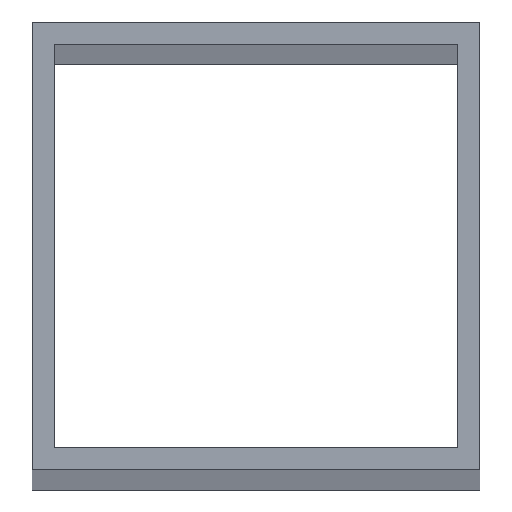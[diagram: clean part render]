
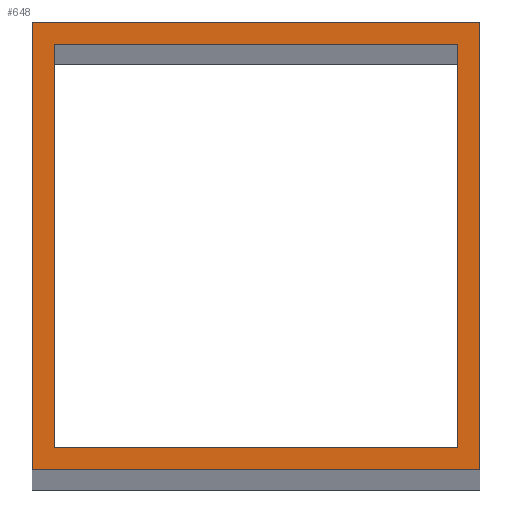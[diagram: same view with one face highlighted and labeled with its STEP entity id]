
A CAD part, top view. The second image highlights one B-rep face of the part: STEP entity #648.
In plain terms, the highlighted planar face has unit normal (0, 0, 1).
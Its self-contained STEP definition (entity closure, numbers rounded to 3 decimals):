
#24 = VERTEX_POINT('',#25);
#25 = CARTESIAN_POINT('',(-40.,-40.,2050.));
#32 = PLANE('',#33);
#33 = AXIS2_PLACEMENT_3D('',#34,#35,#36);
#34 = CARTESIAN_POINT('',(-40.,-40.,0.));
#35 = DIRECTION('',(0.,1.,0.));
#36 = DIRECTION('',(1.,0.,0.));
#44 = PLANE('',#45);
#45 = AXIS2_PLACEMENT_3D('',#46,#47,#48);
#46 = CARTESIAN_POINT('',(-40.,40.,0.));
#47 = DIRECTION('',(1.,0.,-0.));
#48 = DIRECTION('',(0.,-1.,0.));
#56 = EDGE_CURVE('',#24,#57,#59,.T.);
#57 = VERTEX_POINT('',#58);
#58 = CARTESIAN_POINT('',(40.,-40.,2050.));
#59 = SURFACE_CURVE('',#60,(#64,#71),.PCURVE_S1.);
#60 = LINE('',#61,#62);
#61 = CARTESIAN_POINT('',(-40.,-40.,2050.));
#62 = VECTOR('',#63,1.);
#63 = DIRECTION('',(1.,0.,0.));
#64 = PCURVE('',#32,#65);
#65 = DEFINITIONAL_REPRESENTATION('',(#66),#70);
#66 = LINE('',#67,#68);
#67 = CARTESIAN_POINT('',(0.,-2050.));
#68 = VECTOR('',#69,1.);
#69 = DIRECTION('',(1.,0.));
#70 = ( GEOMETRIC_REPRESENTATION_CONTEXT(2) 
PARAMETRIC_REPRESENTATION_CONTEXT() REPRESENTATION_CONTEXT('2D SPACE',''
  ) );
#71 = PCURVE('',#72,#77);
#72 = PLANE('',#73);
#73 = AXIS2_PLACEMENT_3D('',#74,#75,#76);
#74 = CARTESIAN_POINT('',(0.,0.,2050.));
#75 = DIRECTION('',(0.,0.,1.));
#76 = DIRECTION('',(1.,0.,-0.));
#77 = DEFINITIONAL_REPRESENTATION('',(#78),#82);
#78 = LINE('',#79,#80);
#79 = CARTESIAN_POINT('',(-40.,-40.));
#80 = VECTOR('',#81,1.);
#81 = DIRECTION('',(1.,0.));
#82 = ( GEOMETRIC_REPRESENTATION_CONTEXT(2) 
PARAMETRIC_REPRESENTATION_CONTEXT() REPRESENTATION_CONTEXT('2D SPACE',''
  ) );
#100 = PLANE('',#101);
#101 = AXIS2_PLACEMENT_3D('',#102,#103,#104);
#102 = CARTESIAN_POINT('',(40.,-40.,0.));
#103 = DIRECTION('',(-1.,0.,0.));
#104 = DIRECTION('',(0.,1.,0.));
#142 = EDGE_CURVE('',#57,#143,#145,.T.);
#143 = VERTEX_POINT('',#144);
#144 = CARTESIAN_POINT('',(40.,40.,2050.));
#145 = SURFACE_CURVE('',#146,(#150,#157),.PCURVE_S1.);
#146 = LINE('',#147,#148);
#147 = CARTESIAN_POINT('',(40.,-40.,2050.));
#148 = VECTOR('',#149,1.);
#149 = DIRECTION('',(0.,1.,0.));
#150 = PCURVE('',#100,#151);
#151 = DEFINITIONAL_REPRESENTATION('',(#152),#156);
#152 = LINE('',#153,#154);
#153 = CARTESIAN_POINT('',(0.,-2050.));
#154 = VECTOR('',#155,1.);
#155 = DIRECTION('',(1.,0.));
#156 = ( GEOMETRIC_REPRESENTATION_CONTEXT(2) 
PARAMETRIC_REPRESENTATION_CONTEXT() REPRESENTATION_CONTEXT('2D SPACE',''
  ) );
#157 = PCURVE('',#72,#158);
#158 = DEFINITIONAL_REPRESENTATION('',(#159),#163);
#159 = LINE('',#160,#161);
#160 = CARTESIAN_POINT('',(40.,-40.));
#161 = VECTOR('',#162,1.);
#162 = DIRECTION('',(0.,1.));
#163 = ( GEOMETRIC_REPRESENTATION_CONTEXT(2) 
PARAMETRIC_REPRESENTATION_CONTEXT() REPRESENTATION_CONTEXT('2D SPACE',''
  ) );
#181 = PLANE('',#182);
#182 = AXIS2_PLACEMENT_3D('',#183,#184,#185);
#183 = CARTESIAN_POINT('',(40.,40.,0.));
#184 = DIRECTION('',(0.,-1.,0.));
#185 = DIRECTION('',(-1.,0.,0.));
#218 = EDGE_CURVE('',#143,#219,#221,.T.);
#219 = VERTEX_POINT('',#220);
#220 = CARTESIAN_POINT('',(-40.,40.,2050.));
#221 = SURFACE_CURVE('',#222,(#226,#233),.PCURVE_S1.);
#222 = LINE('',#223,#224);
#223 = CARTESIAN_POINT('',(40.,40.,2050.));
#224 = VECTOR('',#225,1.);
#225 = DIRECTION('',(-1.,0.,0.));
#226 = PCURVE('',#181,#227);
#227 = DEFINITIONAL_REPRESENTATION('',(#228),#232);
#228 = LINE('',#229,#230);
#229 = CARTESIAN_POINT('',(0.,-2050.));
#230 = VECTOR('',#231,1.);
#231 = DIRECTION('',(1.,0.));
#232 = ( GEOMETRIC_REPRESENTATION_CONTEXT(2) 
PARAMETRIC_REPRESENTATION_CONTEXT() REPRESENTATION_CONTEXT('2D SPACE',''
  ) );
#233 = PCURVE('',#72,#234);
#234 = DEFINITIONAL_REPRESENTATION('',(#235),#239);
#235 = LINE('',#236,#237);
#236 = CARTESIAN_POINT('',(40.,40.));
#237 = VECTOR('',#238,1.);
#238 = DIRECTION('',(-1.,0.));
#239 = ( GEOMETRIC_REPRESENTATION_CONTEXT(2) 
PARAMETRIC_REPRESENTATION_CONTEXT() REPRESENTATION_CONTEXT('2D SPACE',''
  ) );
#289 = EDGE_CURVE('',#219,#24,#290,.T.);
#290 = SURFACE_CURVE('',#291,(#295,#302),.PCURVE_S1.);
#291 = LINE('',#292,#293);
#292 = CARTESIAN_POINT('',(-40.,40.,2050.));
#293 = VECTOR('',#294,1.);
#294 = DIRECTION('',(0.,-1.,0.));
#295 = PCURVE('',#44,#296);
#296 = DEFINITIONAL_REPRESENTATION('',(#297),#301);
#297 = LINE('',#298,#299);
#298 = CARTESIAN_POINT('',(0.,-2050.));
#299 = VECTOR('',#300,1.);
#300 = DIRECTION('',(1.,0.));
#301 = ( GEOMETRIC_REPRESENTATION_CONTEXT(2) 
PARAMETRIC_REPRESENTATION_CONTEXT() REPRESENTATION_CONTEXT('2D SPACE',''
  ) );
#302 = PCURVE('',#72,#303);
#303 = DEFINITIONAL_REPRESENTATION('',(#304),#308);
#304 = LINE('',#305,#306);
#305 = CARTESIAN_POINT('',(-40.,40.));
#306 = VECTOR('',#307,1.);
#307 = DIRECTION('',(0.,-1.));
#308 = ( GEOMETRIC_REPRESENTATION_CONTEXT(2) 
PARAMETRIC_REPRESENTATION_CONTEXT() REPRESENTATION_CONTEXT('2D SPACE',''
  ) );
#338 = VERTEX_POINT('',#339);
#339 = CARTESIAN_POINT('',(-36.,-36.,2050.));
#346 = PLANE('',#347);
#347 = AXIS2_PLACEMENT_3D('',#348,#349,#350);
#348 = CARTESIAN_POINT('',(-36.,-36.,0.));
#349 = DIRECTION('',(0.,1.,0.));
#350 = DIRECTION('',(1.,0.,0.));
#358 = PLANE('',#359);
#359 = AXIS2_PLACEMENT_3D('',#360,#361,#362);
#360 = CARTESIAN_POINT('',(-36.,36.,0.));
#361 = DIRECTION('',(1.,0.,-0.));
#362 = DIRECTION('',(0.,-1.,0.));
#370 = EDGE_CURVE('',#338,#371,#373,.T.);
#371 = VERTEX_POINT('',#372);
#372 = CARTESIAN_POINT('',(36.,-36.,2050.));
#373 = SURFACE_CURVE('',#374,(#378,#385),.PCURVE_S1.);
#374 = LINE('',#375,#376);
#375 = CARTESIAN_POINT('',(-36.,-36.,2050.));
#376 = VECTOR('',#377,1.);
#377 = DIRECTION('',(1.,0.,0.));
#378 = PCURVE('',#346,#379);
#379 = DEFINITIONAL_REPRESENTATION('',(#380),#384);
#380 = LINE('',#381,#382);
#381 = CARTESIAN_POINT('',(0.,-2050.));
#382 = VECTOR('',#383,1.);
#383 = DIRECTION('',(1.,0.));
#384 = ( GEOMETRIC_REPRESENTATION_CONTEXT(2) 
PARAMETRIC_REPRESENTATION_CONTEXT() REPRESENTATION_CONTEXT('2D SPACE',''
  ) );
#385 = PCURVE('',#72,#386);
#386 = DEFINITIONAL_REPRESENTATION('',(#387),#391);
#387 = LINE('',#388,#389);
#388 = CARTESIAN_POINT('',(-36.,-36.));
#389 = VECTOR('',#390,1.);
#390 = DIRECTION('',(1.,0.));
#391 = ( GEOMETRIC_REPRESENTATION_CONTEXT(2) 
PARAMETRIC_REPRESENTATION_CONTEXT() REPRESENTATION_CONTEXT('2D SPACE',''
  ) );
#409 = PLANE('',#410);
#410 = AXIS2_PLACEMENT_3D('',#411,#412,#413);
#411 = CARTESIAN_POINT('',(36.,-36.,0.));
#412 = DIRECTION('',(-1.,0.,0.));
#413 = DIRECTION('',(0.,1.,0.));
#446 = EDGE_CURVE('',#371,#447,#449,.T.);
#447 = VERTEX_POINT('',#448);
#448 = CARTESIAN_POINT('',(36.,36.,2050.));
#449 = SURFACE_CURVE('',#450,(#454,#461),.PCURVE_S1.);
#450 = LINE('',#451,#452);
#451 = CARTESIAN_POINT('',(36.,-36.,2050.));
#452 = VECTOR('',#453,1.);
#453 = DIRECTION('',(0.,1.,0.));
#454 = PCURVE('',#409,#455);
#455 = DEFINITIONAL_REPRESENTATION('',(#456),#460);
#456 = LINE('',#457,#458);
#457 = CARTESIAN_POINT('',(0.,-2050.));
#458 = VECTOR('',#459,1.);
#459 = DIRECTION('',(1.,0.));
#460 = ( GEOMETRIC_REPRESENTATION_CONTEXT(2) 
PARAMETRIC_REPRESENTATION_CONTEXT() REPRESENTATION_CONTEXT('2D SPACE',''
  ) );
#461 = PCURVE('',#72,#462);
#462 = DEFINITIONAL_REPRESENTATION('',(#463),#467);
#463 = LINE('',#464,#465);
#464 = CARTESIAN_POINT('',(36.,-36.));
#465 = VECTOR('',#466,1.);
#466 = DIRECTION('',(0.,1.));
#467 = ( GEOMETRIC_REPRESENTATION_CONTEXT(2) 
PARAMETRIC_REPRESENTATION_CONTEXT() REPRESENTATION_CONTEXT('2D SPACE',''
  ) );
#485 = PLANE('',#486);
#486 = AXIS2_PLACEMENT_3D('',#487,#488,#489);
#487 = CARTESIAN_POINT('',(36.,36.,0.));
#488 = DIRECTION('',(0.,-1.,0.));
#489 = DIRECTION('',(-1.,0.,0.));
#522 = EDGE_CURVE('',#447,#523,#525,.T.);
#523 = VERTEX_POINT('',#524);
#524 = CARTESIAN_POINT('',(-36.,36.,2050.));
#525 = SURFACE_CURVE('',#526,(#530,#537),.PCURVE_S1.);
#526 = LINE('',#527,#528);
#527 = CARTESIAN_POINT('',(36.,36.,2050.));
#528 = VECTOR('',#529,1.);
#529 = DIRECTION('',(-1.,0.,0.));
#530 = PCURVE('',#485,#531);
#531 = DEFINITIONAL_REPRESENTATION('',(#532),#536);
#532 = LINE('',#533,#534);
#533 = CARTESIAN_POINT('',(0.,-2050.));
#534 = VECTOR('',#535,1.);
#535 = DIRECTION('',(1.,0.));
#536 = ( GEOMETRIC_REPRESENTATION_CONTEXT(2) 
PARAMETRIC_REPRESENTATION_CONTEXT() REPRESENTATION_CONTEXT('2D SPACE',''
  ) );
#537 = PCURVE('',#72,#538);
#538 = DEFINITIONAL_REPRESENTATION('',(#539),#543);
#539 = LINE('',#540,#541);
#540 = CARTESIAN_POINT('',(36.,36.));
#541 = VECTOR('',#542,1.);
#542 = DIRECTION('',(-1.,0.));
#543 = ( GEOMETRIC_REPRESENTATION_CONTEXT(2) 
PARAMETRIC_REPRESENTATION_CONTEXT() REPRESENTATION_CONTEXT('2D SPACE',''
  ) );
#593 = EDGE_CURVE('',#523,#338,#594,.T.);
#594 = SURFACE_CURVE('',#595,(#599,#606),.PCURVE_S1.);
#595 = LINE('',#596,#597);
#596 = CARTESIAN_POINT('',(-36.,36.,2050.));
#597 = VECTOR('',#598,1.);
#598 = DIRECTION('',(0.,-1.,0.));
#599 = PCURVE('',#358,#600);
#600 = DEFINITIONAL_REPRESENTATION('',(#601),#605);
#601 = LINE('',#602,#603);
#602 = CARTESIAN_POINT('',(0.,-2050.));
#603 = VECTOR('',#604,1.);
#604 = DIRECTION('',(1.,0.));
#605 = ( GEOMETRIC_REPRESENTATION_CONTEXT(2) 
PARAMETRIC_REPRESENTATION_CONTEXT() REPRESENTATION_CONTEXT('2D SPACE',''
  ) );
#606 = PCURVE('',#72,#607);
#607 = DEFINITIONAL_REPRESENTATION('',(#608),#612);
#608 = LINE('',#609,#610);
#609 = CARTESIAN_POINT('',(-36.,36.));
#610 = VECTOR('',#611,1.);
#611 = DIRECTION('',(0.,-1.));
#612 = ( GEOMETRIC_REPRESENTATION_CONTEXT(2) 
PARAMETRIC_REPRESENTATION_CONTEXT() REPRESENTATION_CONTEXT('2D SPACE',''
  ) );
#648 = ADVANCED_FACE('',(#649,#655),#72,.T.);
#649 = FACE_BOUND('',#650,.T.);
#650 = EDGE_LOOP('',(#651,#652,#653,#654));
#651 = ORIENTED_EDGE('',*,*,#56,.T.);
#652 = ORIENTED_EDGE('',*,*,#142,.T.);
#653 = ORIENTED_EDGE('',*,*,#218,.T.);
#654 = ORIENTED_EDGE('',*,*,#289,.T.);
#655 = FACE_BOUND('',#656,.F.);
#656 = EDGE_LOOP('',(#657,#658,#659,#660));
#657 = ORIENTED_EDGE('',*,*,#370,.T.);
#658 = ORIENTED_EDGE('',*,*,#446,.T.);
#659 = ORIENTED_EDGE('',*,*,#522,.T.);
#660 = ORIENTED_EDGE('',*,*,#593,.T.);
